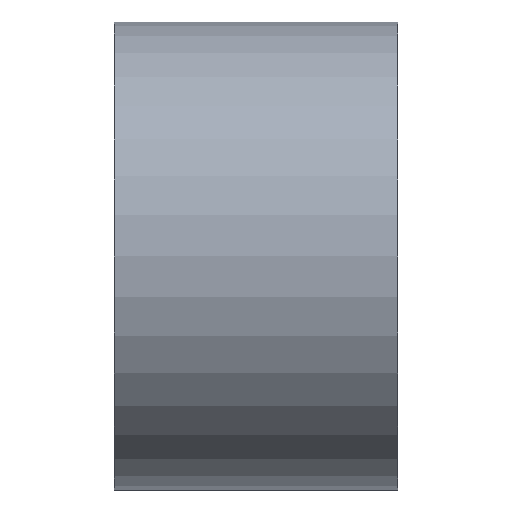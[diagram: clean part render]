
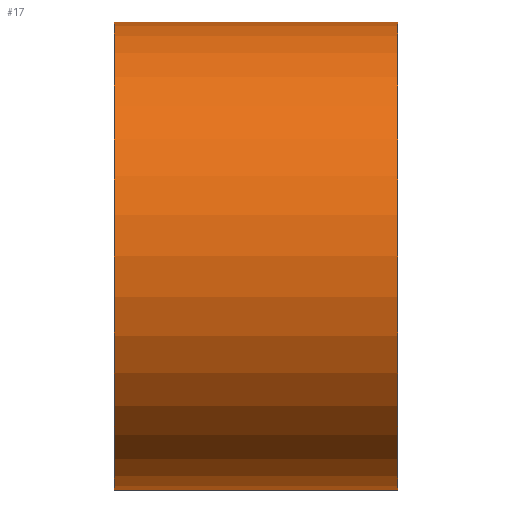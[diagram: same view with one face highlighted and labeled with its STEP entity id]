
A CAD part, front view. The second image highlights one B-rep face of the part: STEP entity #17.
In plain terms, the highlighted cylindrical face has radius 19 mm (diameter 38 mm), a full revolution.
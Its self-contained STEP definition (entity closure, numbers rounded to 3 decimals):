
#17 = ADVANCED_FACE('',(#18),#31,.T.);
#18 = FACE_BOUND('',#19,.T.);
#19 = EDGE_LOOP('',(#20,#54,#77,#104));
#20 = ORIENTED_EDGE('',*,*,#21,.F.);
#21 = EDGE_CURVE('',#22,#22,#24,.T.);
#22 = VERTEX_POINT('',#23);
#23 = CARTESIAN_POINT('',(35.,0.,-19.));
#24 = SURFACE_CURVE('',#25,(#30,#42),.PCURVE_S1.);
#25 = CIRCLE('',#26,19.);
#26 = AXIS2_PLACEMENT_3D('',#27,#28,#29);
#27 = CARTESIAN_POINT('',(35.,0.,0.));
#28 = DIRECTION('',(1.,-0.,0.));
#29 = DIRECTION('',(0.,0.,-1.));
#30 = PCURVE('',#31,#36);
#31 = CYLINDRICAL_SURFACE('',#32,19.);
#32 = AXIS2_PLACEMENT_3D('',#33,#34,#35);
#33 = CARTESIAN_POINT('',(12.,0.,0.));
#34 = DIRECTION('',(1.,0.,0.));
#35 = DIRECTION('',(0.,0.,-1.));
#36 = DEFINITIONAL_REPRESENTATION('',(#37),#41);
#37 = LINE('',#38,#39);
#38 = CARTESIAN_POINT('',(0.,23.));
#39 = VECTOR('',#40,1.);
#40 = DIRECTION('',(1.,0.));
#41 = ( GEOMETRIC_REPRESENTATION_CONTEXT(2) 
PARAMETRIC_REPRESENTATION_CONTEXT() REPRESENTATION_CONTEXT('2D SPACE',''
  ) );
#42 = PCURVE('',#43,#48);
#43 = PLANE('',#44);
#44 = AXIS2_PLACEMENT_3D('',#45,#46,#47);
#45 = CARTESIAN_POINT('',(35.,0.,0.));
#46 = DIRECTION('',(1.,0.,0.));
#47 = DIRECTION('',(0.,0.,-1.));
#48 = DEFINITIONAL_REPRESENTATION('',(#49),#53);
#49 = CIRCLE('',#50,19.);
#50 = AXIS2_PLACEMENT_2D('',#51,#52);
#51 = CARTESIAN_POINT('',(0.,0.));
#52 = DIRECTION('',(1.,0.));
#53 = ( GEOMETRIC_REPRESENTATION_CONTEXT(2) 
PARAMETRIC_REPRESENTATION_CONTEXT() REPRESENTATION_CONTEXT('2D SPACE',''
  ) );
#54 = ORIENTED_EDGE('',*,*,#55,.F.);
#55 = EDGE_CURVE('',#56,#22,#58,.T.);
#56 = VERTEX_POINT('',#57);
#57 = CARTESIAN_POINT('',(12.,0.,-19.));
#58 = SEAM_CURVE('',#59,(#63,#70),.PCURVE_S1.);
#59 = LINE('',#60,#61);
#60 = CARTESIAN_POINT('',(12.,0.,-19.));
#61 = VECTOR('',#62,1.);
#62 = DIRECTION('',(1.,0.,0.));
#63 = PCURVE('',#31,#64);
#64 = DEFINITIONAL_REPRESENTATION('',(#65),#69);
#65 = LINE('',#66,#67);
#66 = CARTESIAN_POINT('',(6.283,-0.));
#67 = VECTOR('',#68,1.);
#68 = DIRECTION('',(0.,1.));
#69 = ( GEOMETRIC_REPRESENTATION_CONTEXT(2) 
PARAMETRIC_REPRESENTATION_CONTEXT() REPRESENTATION_CONTEXT('2D SPACE',''
  ) );
#70 = PCURVE('',#31,#71);
#71 = DEFINITIONAL_REPRESENTATION('',(#72),#76);
#72 = LINE('',#73,#74);
#73 = CARTESIAN_POINT('',(0.,-0.));
#74 = VECTOR('',#75,1.);
#75 = DIRECTION('',(0.,1.));
#76 = ( GEOMETRIC_REPRESENTATION_CONTEXT(2) 
PARAMETRIC_REPRESENTATION_CONTEXT() REPRESENTATION_CONTEXT('2D SPACE',''
  ) );
#77 = ORIENTED_EDGE('',*,*,#78,.T.);
#78 = EDGE_CURVE('',#56,#56,#79,.T.);
#79 = SURFACE_CURVE('',#80,(#85,#92),.PCURVE_S1.);
#80 = CIRCLE('',#81,19.);
#81 = AXIS2_PLACEMENT_3D('',#82,#83,#84);
#82 = CARTESIAN_POINT('',(12.,0.,0.));
#83 = DIRECTION('',(1.,-0.,0.));
#84 = DIRECTION('',(0.,0.,-1.));
#85 = PCURVE('',#31,#86);
#86 = DEFINITIONAL_REPRESENTATION('',(#87),#91);
#87 = LINE('',#88,#89);
#88 = CARTESIAN_POINT('',(0.,0.));
#89 = VECTOR('',#90,1.);
#90 = DIRECTION('',(1.,0.));
#91 = ( GEOMETRIC_REPRESENTATION_CONTEXT(2) 
PARAMETRIC_REPRESENTATION_CONTEXT() REPRESENTATION_CONTEXT('2D SPACE',''
  ) );
#92 = PCURVE('',#93,#98);
#93 = PLANE('',#94);
#94 = AXIS2_PLACEMENT_3D('',#95,#96,#97);
#95 = CARTESIAN_POINT('',(12.,0.,0.));
#96 = DIRECTION('',(1.,0.,0.));
#97 = DIRECTION('',(0.,0.,-1.));
#98 = DEFINITIONAL_REPRESENTATION('',(#99),#103);
#99 = CIRCLE('',#100,19.);
#100 = AXIS2_PLACEMENT_2D('',#101,#102);
#101 = CARTESIAN_POINT('',(0.,0.));
#102 = DIRECTION('',(1.,0.));
#103 = ( GEOMETRIC_REPRESENTATION_CONTEXT(2) 
PARAMETRIC_REPRESENTATION_CONTEXT() REPRESENTATION_CONTEXT('2D SPACE',''
  ) );
#104 = ORIENTED_EDGE('',*,*,#55,.T.);
